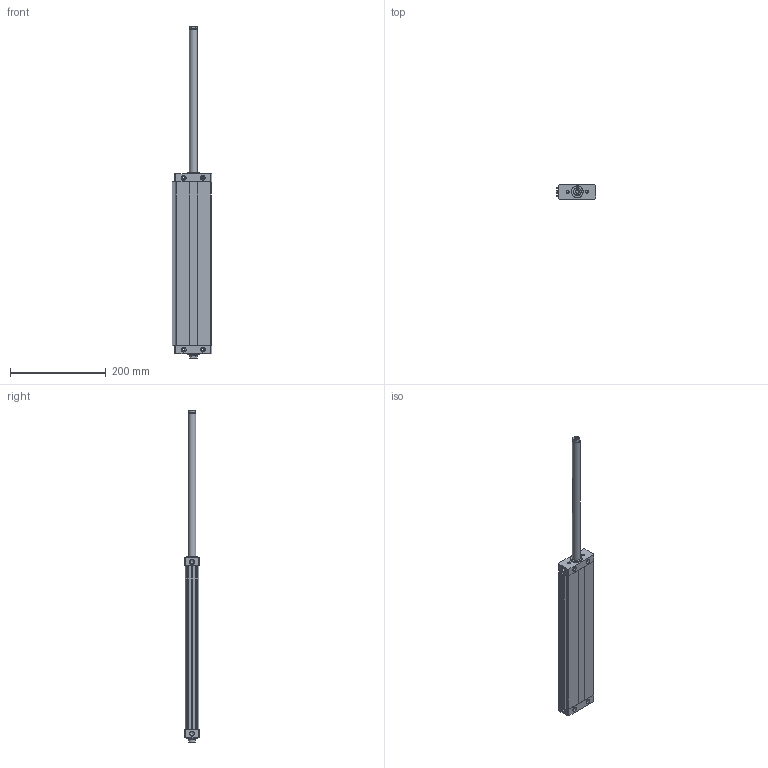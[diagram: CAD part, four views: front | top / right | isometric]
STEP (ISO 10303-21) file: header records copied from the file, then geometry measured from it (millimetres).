
FILE_DESCRIPTION((''),'2;1');
FILE_NAME('I:\Area Tecnica\Disegni\VARIE-3D\Componenti\1370 - CPO\1370_##_0000_03\1370_40_0300_03-01.iam.step','2010-12-16T10:57:28',(''),(''),'Autodesk Inventor 2011','Autodesk Inventor 2011','');
FILE_SCHEMA(('AUTOMOTIVE_DESIGN { 1 0 10303 214 1 1 1 1 }'));
Length unit declared in the file: millimetre
Products named in the file (5): 1370_40_0300_03-01; 1370_05_40_0000; 1370_06_40_0300; 1370_08_40_0000; 1370_3_40_0300
Assembly tree (4 placements, depth 2):
  1370_40_0300_03-01
    1370_05_40_0000
    1370_06_40_0300
    1370_08_40_0000
    1370_3_40_0300
Bounding box: 82.5 x 30 x 694 mm (x, y, z)
Volume: 570758.5 mm3; surface area: 203317.9 mm2
Topology: 4 solids, 4 shells, 166 faces, 398 edges, 254 vertices
Faces by surface type: plane 94, cylinder 48, cone 24
Full cylindrical faces by diameter (mm): 5 x10, 6.8 x2, 8.4 x2, 8.7 x2, 10 x8, 15.5 x2, 16 x4, 25 x2
Entity records: 4848 total; most frequent: DIRECTION 802, CARTESIAN_POINT 799, ORIENTED_EDGE 672, EDGE_CURVE 336, AXIS2_PLACEMENT_3D 299, EDGE_LOOP 254, VERTEX_POINT 244, VECTOR 204
